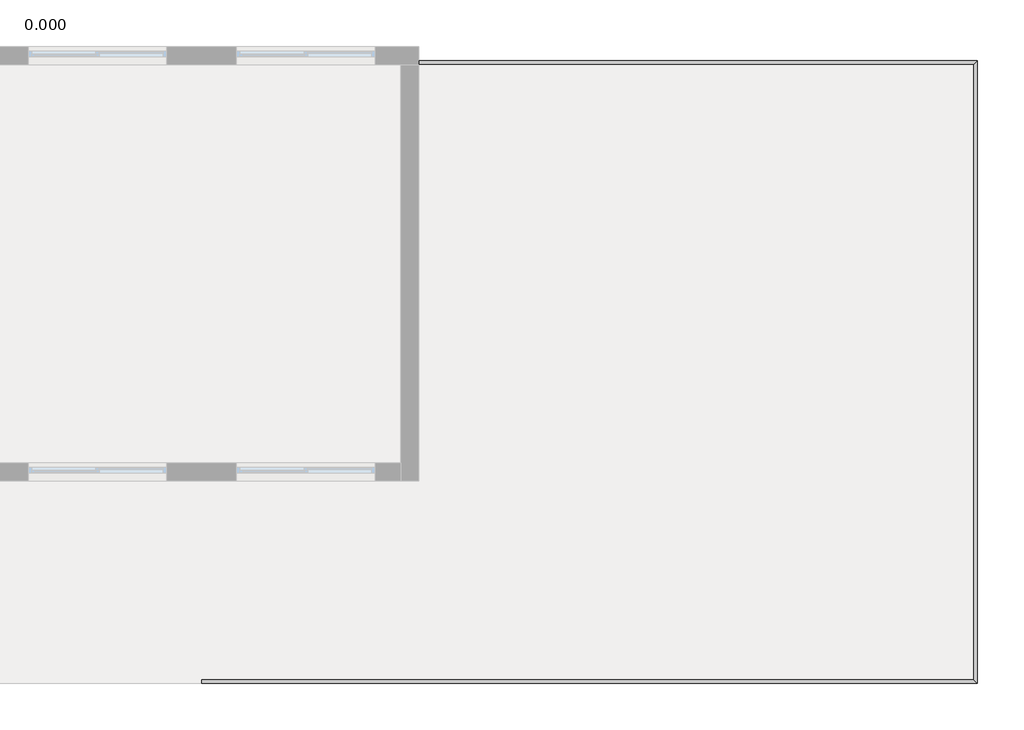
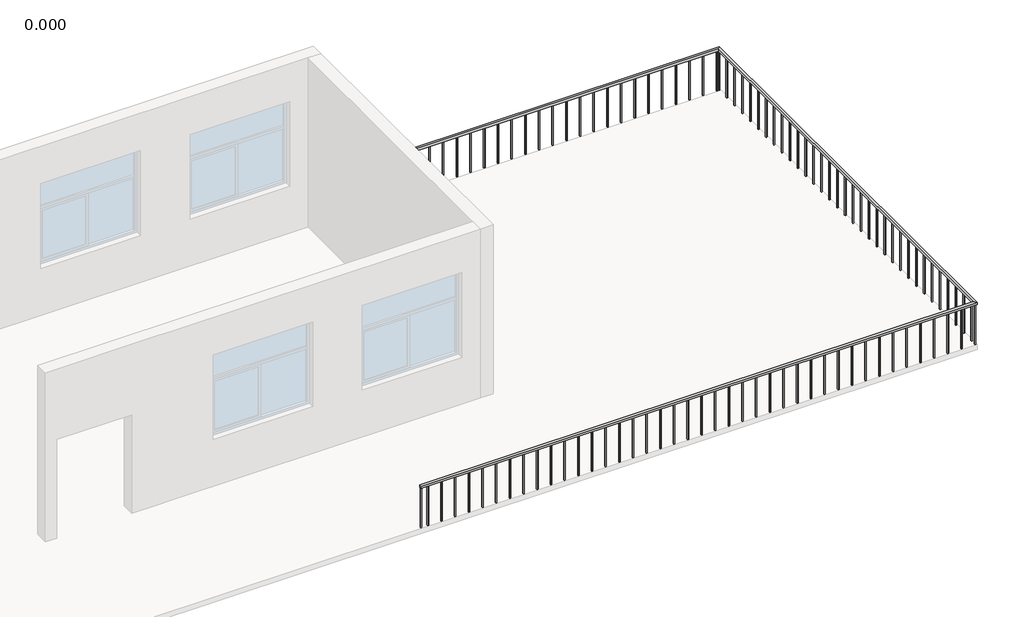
# One storey, part 3 of 3: 1 railing.
"""IFC4 building model written with IfcOpenShell, lengths in millimetres."""

from ifc_helpers import new_model, si_unit, origin, origin_with_axes, place, context, project, spatial, polyline, outline, extrude, faceted_brep, element, save

model = new_model("IFC4")

# Units and contexts
model_context = context("Model", 3, world=origin())
ifc_project = project(units=[si_unit("LENGTHUNIT", "METRE", prefix="MILLI")], contexts=[model_context])

# Site, building, storey
site = spatial("IfcSite", under=ifc_project)
building = spatial("IfcBuilding", under=site)
storey = spatial("IfcBuildingStorey", under=building, Name="0.000", Elevation=0.0)

# Railing
placement = place(None, origin())
element("IfcRailing", 1, ObjectType="900mm", at=placement, inside=storey, context=model_context, shape_type="SolidModel", body=[
    faceted_brep([(11270.8785458, -17613.2373497, 900.0), (11270.8785458, -17613.2373497, 850.0), (11270.8785458, -17663.2373497, 850.0), (11270.8785458, -17663.2373497, 900.0), (19310.8785458, -17613.2373497, 900.0), (19310.8785458, -17613.2373497, 850.0), (19260.8785458, -17663.2373497, 850.0), (19260.8785458, -17663.2373497, 900.0), (19310.8785458, -26583.2373497, 900.0), (19310.8785458, -26583.2373497, 850.0), (19260.8785458, -26533.2373497, 850.0), (19260.8785458, -26533.2373497, 900.0), (8140.8785458, -26583.2373497, 900.0), (8140.8785458, -26533.2373497, 900.0), (8140.8785458, -26533.2373497, 850.0), (8140.8785458, -26583.2373497, 850.0)], [[[0, 1, 2, 3]], [[1, 0, 4, 5]], [[2, 1, 5, 6]], [[3, 2, 6, 7]], [[0, 3, 7, 4]], [[5, 4, 8, 9]], [[6, 5, 9, 10]], [[7, 6, 10, 11]], [[4, 7, 11, 8]], [[12, 13, 14, 15]], [[9, 8, 12, 15]], [[10, 9, 15, 14]], [[11, 10, 14, 13]], [[8, 11, 13, 12]]]),
    extrude(outline(polyline([(8295.8785458, -26548.2373497), (8295.8785458, -26568.2373497), (8275.8785458, -26568.2373497), (8275.8785458, -26548.2373497), (8295.8785458, -26548.2373497)])), origin_with_axes(), (0.0, 0.0, 1.0), 850.0),
    extrude(outline(polyline([(8570.8785458, -26548.2373497), (8570.8785458, -26568.2373497), (8550.8785458, -26568.2373497), (8550.8785458, -26548.2373497), (8570.8785458, -26548.2373497)])), origin_with_axes(), (0.0, 0.0, 1.0), 850.0),
    extrude(outline(polyline([(8845.8785458, -26548.2373497), (8845.8785458, -26568.2373497), (8825.8785458, -26568.2373497), (8825.8785458, -26548.2373497), (8845.8785458, -26548.2373497)])), origin_with_axes(), (0.0, 0.0, 1.0), 850.0),
    extrude(outline(polyline([(9120.8785458, -26548.2373497), (9120.8785458, -26568.2373497), (9100.8785458, -26568.2373497), (9100.8785458, -26548.2373497), (9120.8785458, -26548.2373497)])), origin_with_axes(), (0.0, 0.0, 1.0), 850.0),
    extrude(outline(polyline([(9395.8785458, -26548.2373497), (9395.8785458, -26568.2373497), (9375.8785458, -26568.2373497), (9375.8785458, -26548.2373497), (9395.8785458, -26548.2373497)])), origin_with_axes(), (0.0, 0.0, 1.0), 850.0),
    extrude(outline(polyline([(9670.8785458, -26548.2373497), (9670.8785458, -26568.2373497), (9650.8785458, -26568.2373497), (9650.8785458, -26548.2373497), (9670.8785458, -26548.2373497)])), origin_with_axes(), (0.0, 0.0, 1.0), 850.0),
    extrude(outline(polyline([(9945.8785458, -26548.2373497), (9945.8785458, -26568.2373497), (9925.8785458, -26568.2373497), (9925.8785458, -26548.2373497), (9945.8785458, -26548.2373497)])), origin_with_axes(), (0.0, 0.0, 1.0), 850.0),
    extrude(outline(polyline([(10220.8785458, -26548.2373497), (10220.8785458, -26568.2373497), (10200.8785458, -26568.2373497), (10200.8785458, -26548.2373497), (10220.8785458, -26548.2373497)])), origin_with_axes(), (0.0, 0.0, 1.0), 850.0),
    extrude(outline(polyline([(10495.8785458, -26548.2373497), (10495.8785458, -26568.2373497), (10475.8785458, -26568.2373497), (10475.8785458, -26548.2373497), (10495.8785458, -26548.2373497)])), origin_with_axes(), (0.0, 0.0, 1.0), 850.0),
    extrude(outline(polyline([(10770.8785458, -26548.2373497), (10770.8785458, -26568.2373497), (10750.8785458, -26568.2373497), (10750.8785458, -26548.2373497), (10770.8785458, -26548.2373497)])), origin_with_axes(), (0.0, 0.0, 1.0), 850.0),
    extrude(outline(polyline([(11045.8785458, -26548.2373497), (11045.8785458, -26568.2373497), (11025.8785458, -26568.2373497), (11025.8785458, -26548.2373497), (11045.8785458, -26548.2373497)])), origin_with_axes(), (0.0, 0.0, 1.0), 850.0),
    extrude(outline(polyline([(11320.8785458, -26548.2373497), (11320.8785458, -26568.2373497), (11300.8785458, -26568.2373497), (11300.8785458, -26548.2373497), (11320.8785458, -26548.2373497)])), origin_with_axes(), (0.0, 0.0, 1.0), 850.0),
    extrude(outline(polyline([(11595.8785458, -26548.2373497), (11595.8785458, -26568.2373497), (11575.8785458, -26568.2373497), (11575.8785458, -26548.2373497), (11595.8785458, -26548.2373497)])), origin_with_axes(), (0.0, 0.0, 1.0), 850.0),
    extrude(outline(polyline([(11870.8785458, -26548.2373497), (11870.8785458, -26568.2373497), (11850.8785458, -26568.2373497), (11850.8785458, -26548.2373497), (11870.8785458, -26548.2373497)])), origin_with_axes(), (0.0, 0.0, 1.0), 850.0),
    extrude(outline(polyline([(12145.8785458, -26548.2373497), (12145.8785458, -26568.2373497), (12125.8785458, -26568.2373497), (12125.8785458, -26548.2373497), (12145.8785458, -26548.2373497)])), origin_with_axes(), (0.0, 0.0, 1.0), 850.0),
    extrude(outline(polyline([(12420.8785458, -26548.2373497), (12420.8785458, -26568.2373497), (12400.8785458, -26568.2373497), (12400.8785458, -26548.2373497), (12420.8785458, -26548.2373497)])), origin_with_axes(), (0.0, 0.0, 1.0), 850.0),
    extrude(outline(polyline([(12695.8785458, -26548.2373497), (12695.8785458, -26568.2373497), (12675.8785458, -26568.2373497), (12675.8785458, -26548.2373497), (12695.8785458, -26548.2373497)])), origin_with_axes(), (0.0, 0.0, 1.0), 850.0),
    extrude(outline(polyline([(12970.8785458, -26548.2373497), (12970.8785458, -26568.2373497), (12950.8785458, -26568.2373497), (12950.8785458, -26548.2373497), (12970.8785458, -26548.2373497)])), origin_with_axes(), (0.0, 0.0, 1.0), 850.0),
    extrude(outline(polyline([(13245.8785458, -26548.2373497), (13245.8785458, -26568.2373497), (13225.8785458, -26568.2373497), (13225.8785458, -26548.2373497), (13245.8785458, -26548.2373497)])), origin_with_axes(), (0.0, 0.0, 1.0), 850.0),
    extrude(outline(polyline([(13520.8785458, -26548.2373497), (13520.8785458, -26568.2373497), (13500.8785458, -26568.2373497), (13500.8785458, -26548.2373497), (13520.8785458, -26548.2373497)])), origin_with_axes(), (0.0, 0.0, 1.0), 850.0),
    extrude(outline(polyline([(13795.8785458, -26548.2373497), (13795.8785458, -26568.2373497), (13775.8785458, -26568.2373497), (13775.8785458, -26548.2373497), (13795.8785458, -26548.2373497)])), origin_with_axes(), (0.0, 0.0, 1.0), 850.0),
    extrude(outline(polyline([(14070.8785458, -26548.2373497), (14070.8785458, -26568.2373497), (14050.8785458, -26568.2373497), (14050.8785458, -26548.2373497), (14070.8785458, -26548.2373497)])), origin_with_axes(), (0.0, 0.0, 1.0), 850.0),
    extrude(outline(polyline([(14345.8785458, -26548.2373497), (14345.8785458, -26568.2373497), (14325.8785458, -26568.2373497), (14325.8785458, -26548.2373497), (14345.8785458, -26548.2373497)])), origin_with_axes(), (0.0, 0.0, 1.0), 850.0),
    extrude(outline(polyline([(14620.8785458, -26548.2373497), (14620.8785458, -26568.2373497), (14600.8785458, -26568.2373497), (14600.8785458, -26548.2373497), (14620.8785458, -26548.2373497)])), origin_with_axes(), (0.0, 0.0, 1.0), 850.0),
    extrude(outline(polyline([(14895.8785458, -26548.2373497), (14895.8785458, -26568.2373497), (14875.8785458, -26568.2373497), (14875.8785458, -26548.2373497), (14895.8785458, -26548.2373497)])), origin_with_axes(), (0.0, 0.0, 1.0), 850.0),
    extrude(outline(polyline([(15170.8785458, -26548.2373497), (15170.8785458, -26568.2373497), (15150.8785458, -26568.2373497), (15150.8785458, -26548.2373497), (15170.8785458, -26548.2373497)])), origin_with_axes(), (0.0, 0.0, 1.0), 850.0),
    extrude(outline(polyline([(15445.8785458, -26548.2373497), (15445.8785458, -26568.2373497), (15425.8785458, -26568.2373497), (15425.8785458, -26548.2373497), (15445.8785458, -26548.2373497)])), origin_with_axes(), (0.0, 0.0, 1.0), 850.0),
    extrude(outline(polyline([(15720.8785458, -26548.2373497), (15720.8785458, -26568.2373497), (15700.8785458, -26568.2373497), (15700.8785458, -26548.2373497), (15720.8785458, -26548.2373497)])), origin_with_axes(), (0.0, 0.0, 1.0), 850.0),
    extrude(outline(polyline([(15995.8785458, -26548.2373497), (15995.8785458, -26568.2373497), (15975.8785458, -26568.2373497), (15975.8785458, -26548.2373497), (15995.8785458, -26548.2373497)])), origin_with_axes(), (0.0, 0.0, 1.0), 850.0),
    extrude(outline(polyline([(16270.8785458, -26548.2373497), (16270.8785458, -26568.2373497), (16250.8785458, -26568.2373497), (16250.8785458, -26548.2373497), (16270.8785458, -26548.2373497)])), origin_with_axes(), (0.0, 0.0, 1.0), 850.0),
    extrude(outline(polyline([(16545.8785458, -26548.2373497), (16545.8785458, -26568.2373497), (16525.8785458, -26568.2373497), (16525.8785458, -26548.2373497), (16545.8785458, -26548.2373497)])), origin_with_axes(), (0.0, 0.0, 1.0), 850.0),
    extrude(outline(polyline([(16820.8785458, -26548.2373497), (16820.8785458, -26568.2373497), (16800.8785458, -26568.2373497), (16800.8785458, -26548.2373497), (16820.8785458, -26548.2373497)])), origin_with_axes(), (0.0, 0.0, 1.0), 850.0),
    extrude(outline(polyline([(17095.8785458, -26548.2373497), (17095.8785458, -26568.2373497), (17075.8785458, -26568.2373497), (17075.8785458, -26548.2373497), (17095.8785458, -26548.2373497)])), origin_with_axes(), (0.0, 0.0, 1.0), 850.0),
    extrude(outline(polyline([(17370.8785458, -26548.2373497), (17370.8785458, -26568.2373497), (17350.8785458, -26568.2373497), (17350.8785458, -26548.2373497), (17370.8785458, -26548.2373497)])), origin_with_axes(), (0.0, 0.0, 1.0), 850.0),
    extrude(outline(polyline([(17645.8785458, -26548.2373497), (17645.8785458, -26568.2373497), (17625.8785458, -26568.2373497), (17625.8785458, -26548.2373497), (17645.8785458, -26548.2373497)])), origin_with_axes(), (0.0, 0.0, 1.0), 850.0),
    extrude(outline(polyline([(17920.8785458, -26548.2373497), (17920.8785458, -26568.2373497), (17900.8785458, -26568.2373497), (17900.8785458, -26548.2373497), (17920.8785458, -26548.2373497)])), origin_with_axes(), (0.0, 0.0, 1.0), 850.0),
    extrude(outline(polyline([(18195.8785458, -26548.2373497), (18195.8785458, -26568.2373497), (18175.8785458, -26568.2373497), (18175.8785458, -26548.2373497), (18195.8785458, -26548.2373497)])), origin_with_axes(), (0.0, 0.0, 1.0), 850.0),
    extrude(outline(polyline([(18470.8785458, -26548.2373497), (18470.8785458, -26568.2373497), (18450.8785458, -26568.2373497), (18450.8785458, -26548.2373497), (18470.8785458, -26548.2373497)])), origin_with_axes(), (0.0, 0.0, 1.0), 850.0),
    extrude(outline(polyline([(18745.8785458, -26548.2373497), (18745.8785458, -26568.2373497), (18725.8785458, -26568.2373497), (18725.8785458, -26548.2373497), (18745.8785458, -26548.2373497)])), origin_with_axes(), (0.0, 0.0, 1.0), 850.0),
    extrude(outline(polyline([(19020.8785458, -26548.2373497), (19020.8785458, -26568.2373497), (19000.8785458, -26568.2373497), (19000.8785458, -26548.2373497), (19020.8785458, -26548.2373497)])), origin_with_axes(), (0.0, 0.0, 1.0), 850.0),
    extrude(outline(polyline([(19275.8785458, -26428.2373497), (19295.8785458, -26428.2373497), (19295.8785458, -26448.2373497), (19275.8785458, -26448.2373497), (19275.8785458, -26428.2373497)])), origin_with_axes(), (0.0, 0.0, 1.0), 850.0),
    extrude(outline(polyline([(19275.8785458, -26153.2373497), (19295.8785458, -26153.2373497), (19295.8785458, -26173.2373497), (19275.8785458, -26173.2373497), (19275.8785458, -26153.2373497)])), origin_with_axes(), (0.0, 0.0, 1.0), 850.0),
    extrude(outline(polyline([(19275.8785458, -25878.2373497), (19295.8785458, -25878.2373497), (19295.8785458, -25898.2373497), (19275.8785458, -25898.2373497), (19275.8785458, -25878.2373497)])), origin_with_axes(), (0.0, 0.0, 1.0), 850.0),
    extrude(outline(polyline([(19275.8785458, -25603.2373497), (19295.8785458, -25603.2373497), (19295.8785458, -25623.2373497), (19275.8785458, -25623.2373497), (19275.8785458, -25603.2373497)])), origin_with_axes(), (0.0, 0.0, 1.0), 850.0),
    extrude(outline(polyline([(19275.8785458, -25328.2373497), (19295.8785458, -25328.2373497), (19295.8785458, -25348.2373497), (19275.8785458, -25348.2373497), (19275.8785458, -25328.2373497)])), origin_with_axes(), (0.0, 0.0, 1.0), 850.0),
    extrude(outline(polyline([(19275.8785458, -25053.2373497), (19295.8785458, -25053.2373497), (19295.8785458, -25073.2373497), (19275.8785458, -25073.2373497), (19275.8785458, -25053.2373497)])), origin_with_axes(), (0.0, 0.0, 1.0), 850.0),
    extrude(outline(polyline([(19275.8785458, -24778.2373497), (19295.8785458, -24778.2373497), (19295.8785458, -24798.2373497), (19275.8785458, -24798.2373497), (19275.8785458, -24778.2373497)])), origin_with_axes(), (0.0, 0.0, 1.0), 850.0),
    extrude(outline(polyline([(19275.8785458, -24503.2373497), (19295.8785458, -24503.2373497), (19295.8785458, -24523.2373497), (19275.8785458, -24523.2373497), (19275.8785458, -24503.2373497)])), origin_with_axes(), (0.0, 0.0, 1.0), 850.0),
    extrude(outline(polyline([(19275.8785458, -24228.2373497), (19295.8785458, -24228.2373497), (19295.8785458, -24248.2373497), (19275.8785458, -24248.2373497), (19275.8785458, -24228.2373497)])), origin_with_axes(), (0.0, 0.0, 1.0), 850.0),
    extrude(outline(polyline([(19275.8785458, -23953.2373497), (19295.8785458, -23953.2373497), (19295.8785458, -23973.2373497), (19275.8785458, -23973.2373497), (19275.8785458, -23953.2373497)])), origin_with_axes(), (0.0, 0.0, 1.0), 850.0),
    extrude(outline(polyline([(19275.8785458, -23678.2373497), (19295.8785458, -23678.2373497), (19295.8785458, -23698.2373497), (19275.8785458, -23698.2373497), (19275.8785458, -23678.2373497)])), origin_with_axes(), (0.0, 0.0, 1.0), 850.0),
    extrude(outline(polyline([(19275.8785458, -23403.2373497), (19295.8785458, -23403.2373497), (19295.8785458, -23423.2373497), (19275.8785458, -23423.2373497), (19275.8785458, -23403.2373497)])), origin_with_axes(), (0.0, 0.0, 1.0), 850.0),
    extrude(outline(polyline([(19275.8785458, -23128.2373497), (19295.8785458, -23128.2373497), (19295.8785458, -23148.2373497), (19275.8785458, -23148.2373497), (19275.8785458, -23128.2373497)])), origin_with_axes(), (0.0, 0.0, 1.0), 850.0),
    extrude(outline(polyline([(19275.8785458, -22853.2373497), (19295.8785458, -22853.2373497), (19295.8785458, -22873.2373497), (19275.8785458, -22873.2373497), (19275.8785458, -22853.2373497)])), origin_with_axes(), (0.0, 0.0, 1.0), 850.0),
    extrude(outline(polyline([(19275.8785458, -22578.2373497), (19295.8785458, -22578.2373497), (19295.8785458, -22598.2373497), (19275.8785458, -22598.2373497), (19275.8785458, -22578.2373497)])), origin_with_axes(), (0.0, 0.0, 1.0), 850.0),
    extrude(outline(polyline([(19275.8785458, -22303.2373497), (19295.8785458, -22303.2373497), (19295.8785458, -22323.2373497), (19275.8785458, -22323.2373497), (19275.8785458, -22303.2373497)])), origin_with_axes(), (0.0, 0.0, 1.0), 850.0),
    extrude(outline(polyline([(19275.8785458, -22028.2373497), (19295.8785458, -22028.2373497), (19295.8785458, -22048.2373497), (19275.8785458, -22048.2373497), (19275.8785458, -22028.2373497)])), origin_with_axes(), (0.0, 0.0, 1.0), 850.0),
    extrude(outline(polyline([(19275.8785458, -21753.2373497), (19295.8785458, -21753.2373497), (19295.8785458, -21773.2373497), (19275.8785458, -21773.2373497), (19275.8785458, -21753.2373497)])), origin_with_axes(), (0.0, 0.0, 1.0), 850.0),
    extrude(outline(polyline([(19275.8785458, -21478.2373497), (19295.8785458, -21478.2373497), (19295.8785458, -21498.2373497), (19275.8785458, -21498.2373497), (19275.8785458, -21478.2373497)])), origin_with_axes(), (0.0, 0.0, 1.0), 850.0),
    extrude(outline(polyline([(19275.8785458, -21203.2373497), (19295.8785458, -21203.2373497), (19295.8785458, -21223.2373497), (19275.8785458, -21223.2373497), (19275.8785458, -21203.2373497)])), origin_with_axes(), (0.0, 0.0, 1.0), 850.0),
    extrude(outline(polyline([(19275.8785458, -20928.2373497), (19295.8785458, -20928.2373497), (19295.8785458, -20948.2373497), (19275.8785458, -20948.2373497), (19275.8785458, -20928.2373497)])), origin_with_axes(), (0.0, 0.0, 1.0), 850.0),
    extrude(outline(polyline([(19275.8785458, -20653.2373497), (19295.8785458, -20653.2373497), (19295.8785458, -20673.2373497), (19275.8785458, -20673.2373497), (19275.8785458, -20653.2373497)])), origin_with_axes(), (0.0, 0.0, 1.0), 850.0),
    extrude(outline(polyline([(19275.8785458, -20378.2373497), (19295.8785458, -20378.2373497), (19295.8785458, -20398.2373497), (19275.8785458, -20398.2373497), (19275.8785458, -20378.2373497)])), origin_with_axes(), (0.0, 0.0, 1.0), 850.0),
    extrude(outline(polyline([(19275.8785458, -20103.2373497), (19295.8785458, -20103.2373497), (19295.8785458, -20123.2373497), (19275.8785458, -20123.2373497), (19275.8785458, -20103.2373497)])), origin_with_axes(), (0.0, 0.0, 1.0), 850.0),
    extrude(outline(polyline([(19275.8785458, -19828.2373497), (19295.8785458, -19828.2373497), (19295.8785458, -19848.2373497), (19275.8785458, -19848.2373497), (19275.8785458, -19828.2373497)])), origin_with_axes(), (0.0, 0.0, 1.0), 850.0),
    extrude(outline(polyline([(19275.8785458, -19553.2373497), (19295.8785458, -19553.2373497), (19295.8785458, -19573.2373497), (19275.8785458, -19573.2373497), (19275.8785458, -19553.2373497)])), origin_with_axes(), (0.0, 0.0, 1.0), 850.0),
    extrude(outline(polyline([(19275.8785458, -19278.2373497), (19295.8785458, -19278.2373497), (19295.8785458, -19298.2373497), (19275.8785458, -19298.2373497), (19275.8785458, -19278.2373497)])), origin_with_axes(), (0.0, 0.0, 1.0), 850.0),
    extrude(outline(polyline([(19275.8785458, -19003.2373497), (19295.8785458, -19003.2373497), (19295.8785458, -19023.2373497), (19275.8785458, -19023.2373497), (19275.8785458, -19003.2373497)])), origin_with_axes(), (0.0, 0.0, 1.0), 850.0),
    extrude(outline(polyline([(19275.8785458, -18728.2373497), (19295.8785458, -18728.2373497), (19295.8785458, -18748.2373497), (19275.8785458, -18748.2373497), (19275.8785458, -18728.2373497)])), origin_with_axes(), (0.0, 0.0, 1.0), 850.0),
    extrude(outline(polyline([(19275.8785458, -18453.2373497), (19295.8785458, -18453.2373497), (19295.8785458, -18473.2373497), (19275.8785458, -18473.2373497), (19275.8785458, -18453.2373497)])), origin_with_axes(), (0.0, 0.0, 1.0), 850.0),
    extrude(outline(polyline([(19275.8785458, -18178.2373497), (19295.8785458, -18178.2373497), (19295.8785458, -18198.2373497), (19275.8785458, -18198.2373497), (19275.8785458, -18178.2373497)])), origin_with_axes(), (0.0, 0.0, 1.0), 850.0),
    extrude(outline(polyline([(19275.8785458, -17903.2373497), (19295.8785458, -17903.2373497), (19295.8785458, -17923.2373497), (19275.8785458, -17923.2373497), (19275.8785458, -17903.2373497)])), origin_with_axes(), (0.0, 0.0, 1.0), 850.0),
    extrude(outline(polyline([(19235.8785458, -17648.2373497), (19235.8785458, -17628.2373497), (19255.8785458, -17628.2373497), (19255.8785458, -17648.2373497), (19235.8785458, -17648.2373497)])), origin_with_axes(), (0.0, 0.0, 1.0), 850.0),
    extrude(outline(polyline([(18960.8785458, -17648.2373497), (18960.8785458, -17628.2373497), (18980.8785458, -17628.2373497), (18980.8785458, -17648.2373497), (18960.8785458, -17648.2373497)])), origin_with_axes(), (0.0, 0.0, 1.0), 850.0),
    extrude(outline(polyline([(18685.8785458, -17648.2373497), (18685.8785458, -17628.2373497), (18705.8785458, -17628.2373497), (18705.8785458, -17648.2373497), (18685.8785458, -17648.2373497)])), origin_with_axes(), (0.0, 0.0, 1.0), 850.0),
    extrude(outline(polyline([(18410.8785458, -17648.2373497), (18410.8785458, -17628.2373497), (18430.8785458, -17628.2373497), (18430.8785458, -17648.2373497), (18410.8785458, -17648.2373497)])), origin_with_axes(), (0.0, 0.0, 1.0), 850.0),
    extrude(outline(polyline([(18135.8785458, -17648.2373497), (18135.8785458, -17628.2373497), (18155.8785458, -17628.2373497), (18155.8785458, -17648.2373497), (18135.8785458, -17648.2373497)])), origin_with_axes(), (0.0, 0.0, 1.0), 850.0),
    extrude(outline(polyline([(17860.8785458, -17648.2373497), (17860.8785458, -17628.2373497), (17880.8785458, -17628.2373497), (17880.8785458, -17648.2373497), (17860.8785458, -17648.2373497)])), origin_with_axes(), (0.0, 0.0, 1.0), 850.0),
    extrude(outline(polyline([(17585.8785458, -17648.2373497), (17585.8785458, -17628.2373497), (17605.8785458, -17628.2373497), (17605.8785458, -17648.2373497), (17585.8785458, -17648.2373497)])), origin_with_axes(), (0.0, 0.0, 1.0), 850.0),
    extrude(outline(polyline([(17310.8785458, -17648.2373497), (17310.8785458, -17628.2373497), (17330.8785458, -17628.2373497), (17330.8785458, -17648.2373497), (17310.8785458, -17648.2373497)])), origin_with_axes(), (0.0, 0.0, 1.0), 850.0),
    extrude(outline(polyline([(17035.8785458, -17648.2373497), (17035.8785458, -17628.2373497), (17055.8785458, -17628.2373497), (17055.8785458, -17648.2373497), (17035.8785458, -17648.2373497)])), origin_with_axes(), (0.0, 0.0, 1.0), 850.0),
    extrude(outline(polyline([(16760.8785458, -17648.2373497), (16760.8785458, -17628.2373497), (16780.8785458, -17628.2373497), (16780.8785458, -17648.2373497), (16760.8785458, -17648.2373497)])), origin_with_axes(), (0.0, 0.0, 1.0), 850.0),
    extrude(outline(polyline([(16485.8785458, -17648.2373497), (16485.8785458, -17628.2373497), (16505.8785458, -17628.2373497), (16505.8785458, -17648.2373497), (16485.8785458, -17648.2373497)])), origin_with_axes(), (0.0, 0.0, 1.0), 850.0),
    extrude(outline(polyline([(16210.8785458, -17648.2373497), (16210.8785458, -17628.2373497), (16230.8785458, -17628.2373497), (16230.8785458, -17648.2373497), (16210.8785458, -17648.2373497)])), origin_with_axes(), (0.0, 0.0, 1.0), 850.0),
    extrude(outline(polyline([(15935.8785458, -17648.2373497), (15935.8785458, -17628.2373497), (15955.8785458, -17628.2373497), (15955.8785458, -17648.2373497), (15935.8785458, -17648.2373497)])), origin_with_axes(), (0.0, 0.0, 1.0), 850.0),
    extrude(outline(polyline([(15660.8785458, -17648.2373497), (15660.8785458, -17628.2373497), (15680.8785458, -17628.2373497), (15680.8785458, -17648.2373497), (15660.8785458, -17648.2373497)])), origin_with_axes(), (0.0, 0.0, 1.0), 850.0),
    extrude(outline(polyline([(15385.8785458, -17648.2373497), (15385.8785458, -17628.2373497), (15405.8785458, -17628.2373497), (15405.8785458, -17648.2373497), (15385.8785458, -17648.2373497)])), origin_with_axes(), (0.0, 0.0, 1.0), 850.0),
    extrude(outline(polyline([(15110.8785458, -17648.2373497), (15110.8785458, -17628.2373497), (15130.8785458, -17628.2373497), (15130.8785458, -17648.2373497), (15110.8785458, -17648.2373497)])), origin_with_axes(), (0.0, 0.0, 1.0), 850.0),
    extrude(outline(polyline([(14835.8785458, -17648.2373497), (14835.8785458, -17628.2373497), (14855.8785458, -17628.2373497), (14855.8785458, -17648.2373497), (14835.8785458, -17648.2373497)])), origin_with_axes(), (0.0, 0.0, 1.0), 850.0),
    extrude(outline(polyline([(14560.8785458, -17648.2373497), (14560.8785458, -17628.2373497), (14580.8785458, -17628.2373497), (14580.8785458, -17648.2373497), (14560.8785458, -17648.2373497)])), origin_with_axes(), (0.0, 0.0, 1.0), 850.0),
    extrude(outline(polyline([(14285.8785458, -17648.2373497), (14285.8785458, -17628.2373497), (14305.8785458, -17628.2373497), (14305.8785458, -17648.2373497), (14285.8785458, -17648.2373497)])), origin_with_axes(), (0.0, 0.0, 1.0), 850.0),
    extrude(outline(polyline([(14010.8785458, -17648.2373497), (14010.8785458, -17628.2373497), (14030.8785458, -17628.2373497), (14030.8785458, -17648.2373497), (14010.8785458, -17648.2373497)])), origin_with_axes(), (0.0, 0.0, 1.0), 850.0),
    extrude(outline(polyline([(13735.8785458, -17648.2373497), (13735.8785458, -17628.2373497), (13755.8785458, -17628.2373497), (13755.8785458, -17648.2373497), (13735.8785458, -17648.2373497)])), origin_with_axes(), (0.0, 0.0, 1.0), 850.0),
    extrude(outline(polyline([(13460.8785458, -17648.2373497), (13460.8785458, -17628.2373497), (13480.8785458, -17628.2373497), (13480.8785458, -17648.2373497), (13460.8785458, -17648.2373497)])), origin_with_axes(), (0.0, 0.0, 1.0), 850.0),
    extrude(outline(polyline([(13185.8785458, -17648.2373497), (13185.8785458, -17628.2373497), (13205.8785458, -17628.2373497), (13205.8785458, -17648.2373497), (13185.8785458, -17648.2373497)])), origin_with_axes(), (0.0, 0.0, 1.0), 850.0),
    extrude(outline(polyline([(12910.8785458, -17648.2373497), (12910.8785458, -17628.2373497), (12930.8785458, -17628.2373497), (12930.8785458, -17648.2373497), (12910.8785458, -17648.2373497)])), origin_with_axes(), (0.0, 0.0, 1.0), 850.0),
    extrude(outline(polyline([(12635.8785458, -17648.2373497), (12635.8785458, -17628.2373497), (12655.8785458, -17628.2373497), (12655.8785458, -17648.2373497), (12635.8785458, -17648.2373497)])), origin_with_axes(), (0.0, 0.0, 1.0), 850.0),
    extrude(outline(polyline([(12360.8785458, -17648.2373497), (12360.8785458, -17628.2373497), (12380.8785458, -17628.2373497), (12380.8785458, -17648.2373497), (12360.8785458, -17648.2373497)])), origin_with_axes(), (0.0, 0.0, 1.0), 850.0),
    extrude(outline(polyline([(12085.8785458, -17648.2373497), (12085.8785458, -17628.2373497), (12105.8785458, -17628.2373497), (12105.8785458, -17648.2373497), (12085.8785458, -17648.2373497)])), origin_with_axes(), (0.0, 0.0, 1.0), 850.0),
    extrude(outline(polyline([(11810.8785458, -17648.2373497), (11810.8785458, -17628.2373497), (11830.8785458, -17628.2373497), (11830.8785458, -17648.2373497), (11810.8785458, -17648.2373497)])), origin_with_axes(), (0.0, 0.0, 1.0), 850.0),
    extrude(outline(polyline([(11535.8785458, -17648.2373497), (11535.8785458, -17628.2373497), (11555.8785458, -17628.2373497), (11555.8785458, -17648.2373497), (11535.8785458, -17648.2373497)])), origin_with_axes(), (0.0, 0.0, 1.0), 850.0),
    extrude(outline(polyline([(19275.8785458, -26548.2373497), (19295.8785458, -26548.2373497), (19295.8785458, -26568.2373497), (19275.8785458, -26568.2373497), (19275.8785458, -26548.2373497)])), origin_with_axes(), (0.0, 0.0, 1.0), 850.0),
    extrude(outline(polyline([(19275.8785458, -17648.2373497), (19275.8785458, -17628.2373497), (19295.8785458, -17628.2373497), (19295.8785458, -17648.2373497), (19275.8785458, -17648.2373497)])), origin_with_axes(), (0.0, 0.0, 1.0), 850.0),
    extrude(outline(polyline([(8160.8785458, -26548.2373497), (8160.8785458, -26568.2373497), (8140.8785458, -26568.2373497), (8140.8785458, -26548.2373497), (8160.8785458, -26548.2373497)])), origin_with_axes(), (0.0, 0.0, 1.0), 850.0),
    extrude(outline(polyline([(11270.8785458, -17648.2373497), (11270.8785458, -17628.2373497), (11290.8785458, -17628.2373497), (11290.8785458, -17648.2373497), (11270.8785458, -17648.2373497)])), origin_with_axes(), (0.0, 0.0, 1.0), 850.0),
])

save(model, "model.ifc")
